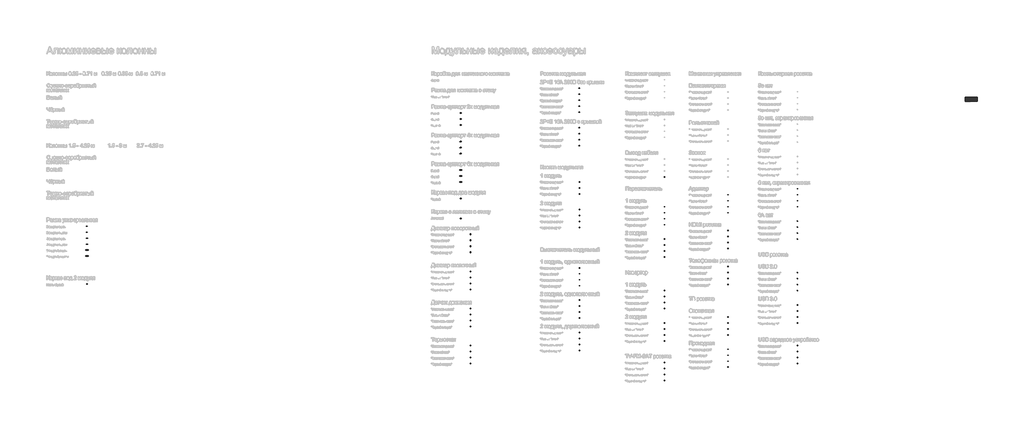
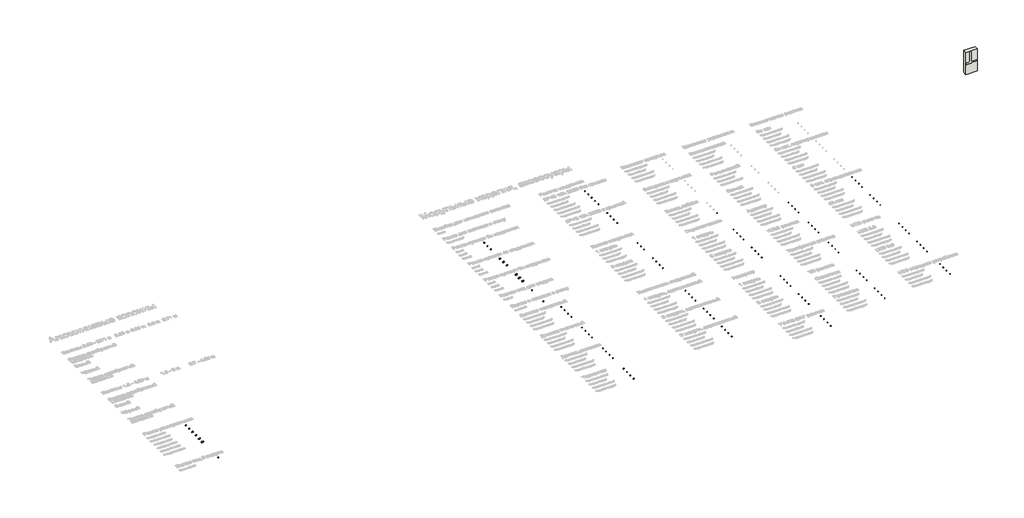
# One storey, part 1 of 168: 123 proxies, 1 wall.
"""IFC4 building model written with IfcOpenShell, lengths in millimetres."""

from ifc_helpers import new_model, si_unit, origin, place, context, project, spatial, faceted_brep, transform, mapped, element, save
from components import electrical_fixtures_64242326, electrical_fixtures_08d7c8de, electrical_fixtures_16670ead, electrical_fixtures_7d6d6c28, electrical_fixtures_3a738e40, electrical_fixtures_c6ee2e83, electrical_fixtures_77dadccb, electrical_fixtures_36bae607, electrical_fixtures_6385b20a, electrical_fixtures_9a973e3c, electrical_fixtures_b8a5143a, electrical_fixtures_9882437b, electrical_fixtures_b6adcdca, electrical_fixtures_d4c5b2d2, electrical_fixtures_fa952ffe, electrical_fixtures_b4ed8b58, electrical_fixtures_f6045c18, electrical_fixtures_06755e86, electrical_fixtures_4ca22318, electrical_fixtures_acd001a0, electrical_fixtures_1e6e54ff, electrical_fixtures_21e1debb, electrical_fixtures_02093a46, electrical_fixtures_5e17c1f7, electrical_fixtures_e4b5cbe2

model = new_model("IFC4")

# Units and contexts
model_context = context("Model", 3, world=origin())
ifc_project = project(units=[si_unit("LENGTHUNIT", "METRE", prefix="MILLI")], contexts=[model_context])

# Site, building, storey
site = spatial("IfcSite", under=ifc_project)
building = spatial("IfcBuilding", under=site)
storey = spatial("IfcBuildingStorey", under=building, Name="Этаж 01", Elevation=0.0)

# Proxies
placement = place(None, origin())
electrical_fixtures_shape = electrical_fixtures_64242326(model_context)
element("IfcBuildingElementProxy", 1, Name="КНС_РамкаСуппортЧетыреМодуля_DKC : Белая", ObjectType="КНС_РамкаСуппортЧетыреМодуля_DKC : Белая", at=placement, inside=storey, context=model_context, shape_type="MappedRepresentation", body=[
    mapped(electrical_fixtures_shape, transform((35321.1137461, -36499.4830334, 0.0), x_axis=(1.0, 0.0, 0.0), y_axis=(0.0, 1.0, 0.0), z_axis=(0.0, 0.0, 1.0))),
])
element("IfcBuildingElementProxy", 2, Name="КНС_РамкаСуппортЧетыреМодуля_DKC : Черная", ObjectType="КНС_РамкаСуппортЧетыреМодуля_DKC : Черная", at=placement, inside=storey, context=model_context, shape_type="MappedRepresentation", body=[
    mapped(electrical_fixtures_shape, transform((35321.1137461, -37499.4830334, 0.0), x_axis=(1.0, 0.0, 0.0), y_axis=(0.0, 1.0, 0.0), z_axis=(0.0, 0.0, 1.0))),
])
element("IfcBuildingElementProxy", 3, Name="КНС_РамкаСуппортЧетыреМодуля_DKC : Серая", ObjectType="КНС_РамкаСуппортЧетыреМодуля_DKC : Серая", at=placement, inside=storey, context=model_context, shape_type="MappedRepresentation", body=[
    mapped(electrical_fixtures_shape, transform((35321.1137461, -36999.4830334, 0.0), x_axis=(1.0, 0.0, 0.0), y_axis=(0.0, 1.0, 0.0), z_axis=(0.0, 0.0, 1.0))),
])
electrical_fixtures_2_shape = electrical_fixtures_08d7c8de(model_context)
element("IfcBuildingElementProxy", 4, Name="КНС_РозеткаМодульная_DKC : 2P+E 16А 230В_Белая", ObjectType="КНС_РозеткаМодульная_DKC : 2P+E 16А 230В_Белая", at=placement, inside=storey, context=model_context, shape_type="MappedRepresentation", body=[
    mapped(electrical_fixtures_2_shape, transform((45221.1137461, -32515.3174816, 0.0), x_axis=(1.0, 0.0, 0.0), y_axis=(0.0, 1.0, 0.0), z_axis=(0.0, 0.0, 1.0))),
])
electrical_fixtures_3_shape = electrical_fixtures_16670ead(model_context)
element("IfcBuildingElementProxy", 5, Name="КНС_РозеткаМодульная_DKC : С крышкой_2P+E 16А 230В_Белая", ObjectType="КНС_РозеткаМодульная_DKC : С крышкой_2P+E 16А 230В_Белая", at=placement, inside=storey, context=model_context, shape_type="MappedRepresentation", body=[
    mapped(electrical_fixtures_3_shape, transform((45221.1137461, -35815.3174816, 0.0), x_axis=(1.0, 0.0, 0.0), y_axis=(0.0, 1.0, 0.0), z_axis=(0.0, 0.0, 1.0))),
])
element("IfcBuildingElementProxy", 6, Name="КНС_РозеткаМодульная_DKC : С крышкой_2P+E 16А 230В_Бежевая", ObjectType="КНС_РозеткаМодульная_DKC : С крышкой_2P+E 16А 230В_Бежевая", at=placement, inside=storey, context=model_context, shape_type="MappedRepresentation", body=[
    mapped(electrical_fixtures_3_shape, transform((45221.1137461, -35315.3174816, 0.0), x_axis=(1.0, 0.0, 0.0), y_axis=(0.0, 1.0, 0.0), z_axis=(0.0, 0.0, 1.0))),
])
element("IfcBuildingElementProxy", 7, Name="КНС_РозеткаМодульная_DKC : 2P+E 16А 230В_Бежевая", ObjectType="КНС_РозеткаМодульная_DKC : 2P+E 16А 230В_Бежевая", at=placement, inside=storey, context=model_context, shape_type="MappedRepresentation", body=[
    mapped(electrical_fixtures_2_shape, transform((45221.1137461, -32015.3174816, 0.0), x_axis=(1.0, 0.0, 0.0), y_axis=(0.0, 1.0, 0.0), z_axis=(0.0, 0.0, 1.0))),
])
element("IfcBuildingElementProxy", 8, Name="КНС_РозеткаМодульная_DKC : 2P+E 16А 230В_Серая", ObjectType="КНС_РозеткаМодульная_DKC : 2P+E 16А 230В_Серая", at=placement, inside=storey, context=model_context, shape_type="MappedRepresentation", body=[
    mapped(electrical_fixtures_2_shape, transform((45221.1137461, -33515.3174816, 0.0), x_axis=(1.0, 0.0, 0.0), y_axis=(0.0, 1.0, 0.0), z_axis=(0.0, 0.0, 1.0))),
])
element("IfcBuildingElementProxy", 9, Name="КНС_РозеткаМодульная_DKC : 2P+E 16А 230В_Черная", ObjectType="КНС_РозеткаМодульная_DKC : 2P+E 16А 230В_Черная", at=placement, inside=storey, context=model_context, shape_type="MappedRepresentation", body=[
    mapped(electrical_fixtures_2_shape, transform((45221.1137461, -34015.3174816, 0.0), x_axis=(1.0, 0.0, 0.0), y_axis=(0.0, 1.0, 0.0), z_axis=(0.0, 0.0, 1.0))),
])
element("IfcBuildingElementProxy", 10, Name="КНС_РозеткаМодульная_DKC : 2P+E 16А 230В_Красная", ObjectType="КНС_РозеткаМодульная_DKC : 2P+E 16А 230В_Красная", at=placement, inside=storey, context=model_context, shape_type="MappedRepresentation", body=[
    mapped(electrical_fixtures_2_shape, transform((45221.1137461, -33015.3174816, 0.0), x_axis=(1.0, 0.0, 0.0), y_axis=(0.0, 1.0, 0.0), z_axis=(0.0, 0.0, 1.0))),
])
element("IfcBuildingElementProxy", 11, Name="КНС_РозеткаМодульная_DKC : С крышкой_2P+E 16А 230В_Черная", ObjectType="КНС_РозеткаМодульная_DKC : С крышкой_2P+E 16А 230В_Черная", at=placement, inside=storey, context=model_context, shape_type="MappedRepresentation", body=[
    mapped(electrical_fixtures_3_shape, transform((45221.1137461, -36815.3174816, 0.0), x_axis=(1.0, 0.0, 0.0), y_axis=(0.0, 1.0, 0.0), z_axis=(0.0, 0.0, 1.0))),
])
element("IfcBuildingElementProxy", 12, Name="КНС_РозеткаМодульная_DKC : С крышкой_2P+E 16А 230В_Серая", ObjectType="КНС_РозеткаМодульная_DKC : С крышкой_2P+E 16А 230В_Серая", at=placement, inside=storey, context=model_context, shape_type="MappedRepresentation", body=[
    mapped(electrical_fixtures_3_shape, transform((45221.1137461, -36315.3174816, 0.0), x_axis=(1.0, 0.0, 0.0), y_axis=(0.0, 1.0, 0.0), z_axis=(0.0, 0.0, 1.0))),
])
electrical_fixtures_4_shape = electrical_fixtures_7d6d6c28(model_context)
element("IfcBuildingElementProxy", 13, Name="КНС_КаркасПодДваМодуля_DKC : Черный", ObjectType="КНС_КаркасПодДваМодуля_DKC : Черный", at=placement, inside=storey, context=model_context, shape_type="MappedRepresentation", body=[
    mapped(electrical_fixtures_4_shape, transform((35321.1137461, -41265.7934012, 0.0), x_axis=(1.0, 0.0, 0.0), y_axis=(0.0, 1.0, 0.0), z_axis=(0.0, 0.0, 1.0))),
])
electrical_fixtures_5_shape = electrical_fixtures_3a738e40(model_context)
element("IfcBuildingElementProxy", 14, Name="КНС_РамкаУниверсальная_DKC : 2 модуля_Черная", ObjectType="КНС_РамкаУниверсальная_DKC : 2 модуля_Черная", at=placement, inside=storey, context=model_context, shape_type="MappedRepresentation", body=[
    mapped(electrical_fixtures_5_shape, transform((4112.3924134, -44058.3895635, 0.0), x_axis=(1.0, 0.0, 0.0), y_axis=(0.0, 1.0, 0.0), z_axis=(0.0, 0.0, 1.0))),
])
element("IfcBuildingElementProxy", 15, Name="КНС_РамкаУниверсальная_DKC : 2 модуля_Серая", ObjectType="КНС_РамкаУниверсальная_DKC : 2 модуля_Серая", at=placement, inside=storey, context=model_context, shape_type="MappedRepresentation", body=[
    mapped(electrical_fixtures_5_shape, transform((4112.3924134, -43558.3895635, 0.0), x_axis=(1.0, 0.0, 0.0), y_axis=(0.0, 1.0, 0.0), z_axis=(0.0, 0.0, 1.0))),
])
electrical_fixtures_6_shape = electrical_fixtures_c6ee2e83(model_context)
element("IfcBuildingElementProxy", 16, Name="КНС_РамкаУниверсальная_DKC : 4 модуля_Серая", ObjectType="КНС_РамкаУниверсальная_DKC : 4 модуля_Серая", at=placement, inside=storey, context=model_context, shape_type="MappedRepresentation", body=[
    mapped(electrical_fixtures_6_shape, transform((4112.3924134, -44558.3895635, 0.0), x_axis=(1.0, 0.0, 0.0), y_axis=(0.0, 1.0, 0.0), z_axis=(0.0, 0.0, 1.0))),
])
element("IfcBuildingElementProxy", 17, Name="КНС_РамкаУниверсальная_DKC : 4 модуля_Черная", ObjectType="КНС_РамкаУниверсальная_DKC : 4 модуля_Черная", at=placement, inside=storey, context=model_context, shape_type="MappedRepresentation", body=[
    mapped(electrical_fixtures_6_shape, transform((4112.3924134, -45058.3895635, 0.0), x_axis=(1.0, 0.0, 0.0), y_axis=(0.0, 1.0, 0.0), z_axis=(0.0, 0.0, 1.0))),
])
electrical_fixtures_7_shape = electrical_fixtures_77dadccb(model_context)
element("IfcBuildingElementProxy", 18, Name="КНС_РамкаУниверсальная_DKC : 6 модулей_Черная", ObjectType="КНС_РамкаУниверсальная_DKC : 6 модулей_Черная", at=placement, inside=storey, context=model_context, shape_type="MappedRepresentation", body=[
    mapped(electrical_fixtures_7_shape, transform((4112.3924134, -46058.3895635, 0.0), x_axis=(1.0, 0.0, 0.0), y_axis=(0.0, 1.0, 0.0), z_axis=(0.0, 0.0, 1.0))),
])
element("IfcBuildingElementProxy", 19, Name="КНС_РамкаУниверсальная_DKC : 6 модулей_Серая", ObjectType="КНС_РамкаУниверсальная_DKC : 6 модулей_Серая", at=placement, inside=storey, context=model_context, shape_type="MappedRepresentation", body=[
    mapped(electrical_fixtures_7_shape, transform((4112.3924134, -45558.3895635, 0.0), x_axis=(1.0, 0.0, 0.0), y_axis=(0.0, 1.0, 0.0), z_axis=(0.0, 0.0, 1.0))),
])
element("IfcBuildingElementProxy", 20, Name="КНС_КаркасПодДваМодуляBrava_DKC : Черный", ObjectType="КНС_КаркасПодДваМодуляBrava_DKC : Черный", at=placement, inside=storey, context=model_context, shape_type="MappedRepresentation", body=[
    mapped(electrical_fixtures_4_shape, transform((4112.3924134, -48400.8371918, 0.0), x_axis=(1.0, 0.0, 0.0), y_axis=(0.0, 1.0, 0.0), z_axis=(0.0, 0.0, 1.0))),
])
electrical_fixtures_8_shape = electrical_fixtures_36bae607(model_context)
element("IfcBuildingElementProxy", 21, Name="КНС_КаркасСЛапкамиВСтены_DKC : Алюминий", ObjectType="КНС_КаркасСЛапкамиВСтены_DKC : Алюминий", at=placement, inside=storey, context=model_context, shape_type="MappedRepresentation", body=[
    mapped(electrical_fixtures_8_shape, transform((35321.1137461, -42901.0934012, 0.0), x_axis=(1.0, 0.0, 0.0), y_axis=(0.0, 1.0, 0.0), z_axis=(0.0, 0.0, 1.0))),
])
electrical_fixtures_9_shape = electrical_fixtures_6385b20a(model_context)
element("IfcBuildingElementProxy", 22, Name="КНС_РамкаСуппортДваМодуля_DKC : Белая", ObjectType="КНС_РамкаСуппортДваМодуля_DKC : Белая", at=placement, inside=storey, context=model_context, shape_type="MappedRepresentation", body=[
    mapped(electrical_fixtures_9_shape, transform((35321.1137461, -34116.3278495, 0.0), x_axis=(1.0, 0.0, 0.0), y_axis=(0.0, 1.0, 0.0), z_axis=(0.0, 0.0, 1.0))),
])
element("IfcBuildingElementProxy", 23, Name="КНС_РамкаСуппортДваМодуля_DKC : Черная", ObjectType="КНС_РамкаСуппортДваМодуля_DKC : Черная", at=placement, inside=storey, context=model_context, shape_type="MappedRepresentation", body=[
    mapped(electrical_fixtures_9_shape, transform((35321.1137461, -35116.3278495, 0.0), x_axis=(1.0, 0.0, 0.0), y_axis=(0.0, 1.0, 0.0), z_axis=(0.0, 0.0, 1.0))),
])
element("IfcBuildingElementProxy", 24, Name="КНС_РамкаСуппортДваМодуля_DKC : Серая", ObjectType="КНС_РамкаСуппортДваМодуля_DKC : Серая", at=placement, inside=storey, context=model_context, shape_type="MappedRepresentation", body=[
    mapped(electrical_fixtures_9_shape, transform((35321.1137461, -34616.3278495, 0.0), x_axis=(1.0, 0.0, 0.0), y_axis=(0.0, 1.0, 0.0), z_axis=(0.0, 0.0, 1.0))),
])
electrical_fixtures_10_shape = electrical_fixtures_9a973e3c(model_context)
element("IfcBuildingElementProxy", 25, Name="КНС_РамкаСуппортШестьМодулей_DKC : Белая", ObjectType="КНС_РамкаСуппортШестьМодулей_DKC : Белая", at=placement, inside=storey, context=model_context, shape_type="MappedRepresentation", body=[
    mapped(electrical_fixtures_10_shape, transform((35321.1137461, -38882.6382173, 0.0), x_axis=(1.0, 0.0, 0.0), y_axis=(0.0, 1.0, 0.0), z_axis=(0.0, 0.0, 1.0))),
])
element("IfcBuildingElementProxy", 26, Name="КНС_РамкаСуппортШестьМодулей_DKC : Черная", ObjectType="КНС_РамкаСуппортШестьМодулей_DKC : Черная", at=placement, inside=storey, context=model_context, shape_type="MappedRepresentation", body=[
    mapped(electrical_fixtures_10_shape, transform((35321.1137461, -39882.6382173, 0.0), x_axis=(1.0, 0.0, 0.0), y_axis=(0.0, 1.0, 0.0), z_axis=(0.0, 0.0, 1.0))),
])
element("IfcBuildingElementProxy", 27, Name="КНС_РамкаСуппортШестьМодулей_DKC : Серая", ObjectType="КНС_РамкаСуппортШестьМодулей_DKC : Серая", at=placement, inside=storey, context=model_context, shape_type="MappedRepresentation", body=[
    mapped(electrical_fixtures_10_shape, transform((35321.1137461, -39382.6382173, 0.0), x_axis=(1.0, 0.0, 0.0), y_axis=(0.0, 1.0, 0.0), z_axis=(0.0, 0.0, 1.0))),
])
electrical_fixtures_11_shape = electrical_fixtures_b8a5143a(model_context)
element("IfcBuildingElementProxy", 28, Name="КНС_КнопкаМодульная_DKC : 2 модуля_Белый", ObjectType="КНС_КнопкаМодульная_DKC : 2 модуля_Белый", at=placement, inside=storey, context=model_context, shape_type="MappedRepresentation", body=[
    mapped(electrical_fixtures_11_shape, transform((45221.1137461, -42631.0934012, 0.0), x_axis=(1.0, 0.0, 0.0), y_axis=(0.0, 1.0, 0.0), z_axis=(0.0, 0.0, 1.0))),
])
element("IfcBuildingElementProxy", 29, Name="КНС_КнопкаМодульная_DKC : 2 модуля_Бежевый", ObjectType="КНС_КнопкаМодульная_DKC : 2 модуля_Бежевый", at=placement, inside=storey, context=model_context, shape_type="MappedRepresentation", body=[
    mapped(electrical_fixtures_11_shape, transform((45221.1137461, -42131.0934012, 0.0), x_axis=(1.0, 0.0, 0.0), y_axis=(0.0, 1.0, 0.0), z_axis=(0.0, 0.0, 1.0))),
])
element("IfcBuildingElementProxy", 30, Name="КНС_КнопкаМодульная_DKC : 2 модуля_Серый", ObjectType="КНС_КнопкаМодульная_DKC : 2 модуля_Серый", at=placement, inside=storey, context=model_context, shape_type="MappedRepresentation", body=[
    mapped(electrical_fixtures_11_shape, transform((45221.1137461, -43131.0934012, 0.0), x_axis=(1.0, 0.0, 0.0), y_axis=(0.0, 1.0, 0.0), z_axis=(0.0, 0.0, 1.0))),
])
element("IfcBuildingElementProxy", 31, Name="КНС_КнопкаМодульная_DKC : 2 модуля_Черный", ObjectType="КНС_КнопкаМодульная_DKC : 2 модуля_Черный", at=placement, inside=storey, context=model_context, shape_type="MappedRepresentation", body=[
    mapped(electrical_fixtures_11_shape, transform((45221.1137461, -43631.0934012, 0.0), x_axis=(1.0, 0.0, 0.0), y_axis=(0.0, 1.0, 0.0), z_axis=(0.0, 0.0, 1.0))),
])
electrical_fixtures_12_shape = electrical_fixtures_9882437b(model_context)
element("IfcBuildingElementProxy", 32, Name="КНС_КнопкаМодульная_DKC : 1 модуль_Бежевый", ObjectType="КНС_КнопкаМодульная_DKC : 1 модуль_Бежевый", at=placement, inside=storey, context=model_context, shape_type="MappedRepresentation", body=[
    mapped(electrical_fixtures_12_shape, transform((45221.1137461, -39831.0934012, 0.0), x_axis=(1.0, 0.0, 0.0), y_axis=(0.0, 1.0, 0.0), z_axis=(0.0, 0.0, 1.0))),
])
element("IfcBuildingElementProxy", 33, Name="КНС_КнопкаМодульная_DKC : 1 модуль_Белый", ObjectType="КНС_КнопкаМодульная_DKC : 1 модуль_Белый", at=placement, inside=storey, context=model_context, shape_type="MappedRepresentation", body=[
    mapped(electrical_fixtures_12_shape, transform((45221.1137461, -40331.0934012, 0.0), x_axis=(1.0, 0.0, 0.0), y_axis=(0.0, 1.0, 0.0), z_axis=(0.0, 0.0, 1.0))),
])
element("IfcBuildingElementProxy", 34, Name="КНС_КнопкаМодульная_DKC : 1 модуль_Черный", ObjectType="КНС_КнопкаМодульная_DKC : 1 модуль_Черный", at=placement, inside=storey, context=model_context, shape_type="MappedRepresentation", body=[
    mapped(electrical_fixtures_12_shape, transform((45221.1137461, -40831.0934012, 0.0), x_axis=(1.0, 0.0, 0.0), y_axis=(0.0, 1.0, 0.0), z_axis=(0.0, 0.0, 1.0))),
])
element("IfcBuildingElementProxy", 35, Name="КНС_ВыключательМодульный_DKC : Однополюсный_2 модуля_Белый", ObjectType="КНС_ВыключательМодульный_DKC : Однополюсный_2 модуля_Белый", at=placement, inside=storey, context=model_context, shape_type="MappedRepresentation", body=[
    mapped(electrical_fixtures_11_shape, transform((45221.1137461, -50209.0514682, 0.0), x_axis=(1.0, 0.0, 0.0), y_axis=(0.0, 1.0, 0.0), z_axis=(0.0, 0.0, 1.0))),
])
element("IfcBuildingElementProxy", 36, Name="КНС_ВыключательМодульный_DKC : Однополюсный_2 модуля_Бежевый", ObjectType="КНС_ВыключательМодульный_DKC : Однополюсный_2 модуля_Бежевый", at=placement, inside=storey, context=model_context, shape_type="MappedRepresentation", body=[
    mapped(electrical_fixtures_11_shape, transform((45221.1137461, -49709.0514682, 0.0), x_axis=(1.0, 0.0, 0.0), y_axis=(0.0, 1.0, 0.0), z_axis=(0.0, 0.0, 1.0))),
])
element("IfcBuildingElementProxy", 37, Name="КНС_ВыключательМодульный_DKC : Однополюсный_2 модуля_Серый", ObjectType="КНС_ВыключательМодульный_DKC : Однополюсный_2 модуля_Серый", at=placement, inside=storey, context=model_context, shape_type="MappedRepresentation", body=[
    mapped(electrical_fixtures_11_shape, transform((45221.1137461, -50709.0514682, 0.0), x_axis=(1.0, 0.0, 0.0), y_axis=(0.0, 1.0, 0.0), z_axis=(0.0, 0.0, 1.0))),
])
element("IfcBuildingElementProxy", 38, Name="КНС_ВыключательМодульный_DKC : Однополюсный_2 модуля_Черный", ObjectType="КНС_ВыключательМодульный_DKC : Однополюсный_2 модуля_Черный", at=placement, inside=storey, context=model_context, shape_type="MappedRepresentation", body=[
    mapped(electrical_fixtures_11_shape, transform((45221.1137461, -51209.0514682, 0.0), x_axis=(1.0, 0.0, 0.0), y_axis=(0.0, 1.0, 0.0), z_axis=(0.0, 0.0, 1.0))),
])
element("IfcBuildingElementProxy", 39, Name="КНС_ВыключательМодульный_DKC : Однополюсный_1 модуль_Бежевый", ObjectType="КНС_ВыключательМодульный_DKC : Однополюсный_1 модуль_Бежевый", at=placement, inside=storey, context=model_context, shape_type="MappedRepresentation", body=[
    mapped(electrical_fixtures_12_shape, transform((45221.1137461, -47009.0514682, 0.0), x_axis=(1.0, 0.0, 0.0), y_axis=(0.0, 1.0, 0.0), z_axis=(0.0, 0.0, 1.0))),
])
element("IfcBuildingElementProxy", 40, Name="КНС_ВыключательМодульный_DKC : Однополюсный_1 модуль_Белый", ObjectType="КНС_ВыключательМодульный_DKC : Однополюсный_1 модуль_Белый", at=placement, inside=storey, context=model_context, shape_type="MappedRepresentation", body=[
    mapped(electrical_fixtures_12_shape, transform((45221.1137461, -47509.0514682, 0.0), x_axis=(1.0, 0.0, 0.0), y_axis=(0.0, 1.0, 0.0), z_axis=(0.0, 0.0, 1.0))),
])
element("IfcBuildingElementProxy", 41, Name="КНС_ВыключательМодульный_DKC : Однополюсный_1 модуль_Черный", ObjectType="КНС_ВыключательМодульный_DKC : Однополюсный_1 модуль_Черный", at=placement, inside=storey, context=model_context, shape_type="MappedRepresentation", body=[
    mapped(electrical_fixtures_12_shape, transform((45221.1137461, -48509.0514682, 0.0), x_axis=(1.0, 0.0, 0.0), y_axis=(0.0, 1.0, 0.0), z_axis=(0.0, 0.0, 1.0))),
])
element("IfcBuildingElementProxy", 42, Name="КНС_ВыключательМодульный_DKC : Однополюсный_1 модуль_Серый", ObjectType="КНС_ВыключательМодульный_DKC : Однополюсный_1 модуль_Серый", at=placement, inside=storey, context=model_context, shape_type="MappedRepresentation", body=[
    mapped(electrical_fixtures_12_shape, transform((45221.1137461, -48009.0514682, 0.0), x_axis=(1.0, 0.0, 0.0), y_axis=(0.0, 1.0, 0.0), z_axis=(0.0, 0.0, 1.0))),
])
element("IfcBuildingElementProxy", 43, Name="КНС_ВыключательМодульный_DKC : Двухполюсный_2 модуля_Черный", ObjectType="КНС_ВыключательМодульный_DKC : Двухполюсный_2 модуля_Черный", at=placement, inside=storey, context=model_context, shape_type="MappedRepresentation", body=[
    mapped(electrical_fixtures_11_shape, transform((45221.1137461, -53909.0514682, 0.0), x_axis=(1.0, 0.0, 0.0), y_axis=(0.0, 1.0, 0.0), z_axis=(0.0, 0.0, 1.0))),
])
element("IfcBuildingElementProxy", 44, Name="КНС_ВыключательМодульный_DKC : Двухполюсный_2 модуля_Серый", ObjectType="КНС_ВыключательМодульный_DKC : Двухполюсный_2 модуля_Серый", at=placement, inside=storey, context=model_context, shape_type="MappedRepresentation", body=[
    mapped(electrical_fixtures_11_shape, transform((45221.1137461, -53409.0514682, 0.0), x_axis=(1.0, 0.0, 0.0), y_axis=(0.0, 1.0, 0.0), z_axis=(0.0, 0.0, 1.0))),
])
element("IfcBuildingElementProxy", 45, Name="КНС_ВыключательМодульный_DKC : Двухполюсный_2 модуля_Белый", ObjectType="КНС_ВыключательМодульный_DKC : Двухполюсный_2 модуля_Белый", at=placement, inside=storey, context=model_context, shape_type="MappedRepresentation", body=[
    mapped(electrical_fixtures_11_shape, transform((45221.1137461, -52909.0514682, 0.0), x_axis=(1.0, 0.0, 0.0), y_axis=(0.0, 1.0, 0.0), z_axis=(0.0, 0.0, 1.0))),
])
element("IfcBuildingElementProxy", 46, Name="КНС_ВыключательМодульный_DKC : Двухполюсный_2 модуля_Бежевый", ObjectType="КНС_ВыключательМодульный_DKC : Двухполюсный_2 модуля_Бежевый", at=placement, inside=storey, context=model_context, shape_type="MappedRepresentation", body=[
    mapped(electrical_fixtures_11_shape, transform((45221.1137461, -52409.0514682, 0.0), x_axis=(1.0, 0.0, 0.0), y_axis=(0.0, 1.0, 0.0), z_axis=(0.0, 0.0, 1.0))),
])
electrical_fixtures_13_shape = electrical_fixtures_b6adcdca(model_context)
element("IfcBuildingElementProxy", 47, Name="КНС_ВыводКабеляДваМодуля_DKC : Черный", ObjectType="КНС_ВыводКабеляДваМодуля_DKC : Черный", at=placement, inside=storey, context=model_context, shape_type="MappedRepresentation", body=[
    mapped(electrical_fixtures_13_shape, transform((52321.1137461, -39415.3174816, 0.0), x_axis=(1.0, 0.0, 0.0), y_axis=(0.0, 1.0, 0.0), z_axis=(0.0, 0.0, 1.0))),
])
element("IfcBuildingElementProxy", 48, Name="КНС_ПереключательМодульный_DKC : 2 модуля_Белый", ObjectType="КНС_ПереключательМодульный_DKC : 2 модуля_Белый", at=placement, inside=storey, context=model_context, shape_type="MappedRepresentation", body=[
    mapped(electrical_fixtures_11_shape, transform((52321.1137461, -45115.3174816, 0.0), x_axis=(1.0, 0.0, 0.0), y_axis=(0.0, 1.0, 0.0), z_axis=(0.0, 0.0, 1.0))),
])
element("IfcBuildingElementProxy", 49, Name="КНС_ПереключательМодульный_DKC : 2 модуля_Бежевый", ObjectType="КНС_ПереключательМодульный_DKC : 2 модуля_Бежевый", at=placement, inside=storey, context=model_context, shape_type="MappedRepresentation", body=[
    mapped(electrical_fixtures_11_shape, transform((52321.1137461, -44615.3174816, 0.0), x_axis=(1.0, 0.0, 0.0), y_axis=(0.0, 1.0, 0.0), z_axis=(0.0, 0.0, 1.0))),
])
element("IfcBuildingElementProxy", 50, Name="КНС_ПереключательМодульный_DKC : 2 модуля_Серый", ObjectType="КНС_ПереключательМодульный_DKC : 2 модуля_Серый", at=placement, inside=storey, context=model_context, shape_type="MappedRepresentation", body=[
    mapped(electrical_fixtures_11_shape, transform((52321.1137461, -45615.3174816, 0.0), x_axis=(1.0, 0.0, 0.0), y_axis=(0.0, 1.0, 0.0), z_axis=(0.0, 0.0, 1.0))),
])
element("IfcBuildingElementProxy", 51, Name="КНС_ПереключательМодульный_DKC : 2 модуля_Черный", ObjectType="КНС_ПереключательМодульный_DKC : 2 модуля_Черный", at=placement, inside=storey, context=model_context, shape_type="MappedRepresentation", body=[
    mapped(electrical_fixtures_11_shape, transform((52321.1137461, -46115.3174816, 0.0), x_axis=(1.0, 0.0, 0.0), y_axis=(0.0, 1.0, 0.0), z_axis=(0.0, 0.0, 1.0))),
])
element("IfcBuildingElementProxy", 52, Name="КНС_ПереключательМодульный_DKC : 1 модуль_Бежевый", ObjectType="КНС_ПереключательМодульный_DKC : 1 модуль_Бежевый", at=placement, inside=storey, context=model_context, shape_type="MappedRepresentation", body=[
    mapped(electrical_fixtures_12_shape, transform((52321.1137461, -41915.3174816, 0.0), x_axis=(1.0, 0.0, 0.0), y_axis=(0.0, 1.0, 0.0), z_axis=(0.0, 0.0, 1.0))),
])
element("IfcBuildingElementProxy", 53, Name="КНС_ПереключательМодульный_DKC : 1 модуль_Белый", ObjectType="КНС_ПереключательМодульный_DKC : 1 модуль_Белый", at=placement, inside=storey, context=model_context, shape_type="MappedRepresentation", body=[
    mapped(electrical_fixtures_12_shape, transform((52321.1137461, -42415.3174816, 0.0), x_axis=(1.0, 0.0, 0.0), y_axis=(0.0, 1.0, 0.0), z_axis=(0.0, 0.0, 1.0))),
])
element("IfcBuildingElementProxy", 54, Name="КНС_ПереключательМодульный_DKC : 1 модуль_Серый", ObjectType="КНС_ПереключательМодульный_DKC : 1 модуль_Серый", at=placement, inside=storey, context=model_context, shape_type="MappedRepresentation", body=[
    mapped(electrical_fixtures_12_shape, transform((52321.1137461, -42915.3174816, 0.0), x_axis=(1.0, 0.0, 0.0), y_axis=(0.0, 1.0, 0.0), z_axis=(0.0, 0.0, 1.0))),
])
element("IfcBuildingElementProxy", 55, Name="КНС_ПереключательМодульный_DKC : 1 модуль_Черный", ObjectType="КНС_ПереключательМодульный_DKC : 1 модуль_Черный", at=placement, inside=storey, context=model_context, shape_type="MappedRepresentation", body=[
    mapped(electrical_fixtures_12_shape, transform((52321.1137461, -43415.3174816, 0.0), x_axis=(1.0, 0.0, 0.0), y_axis=(0.0, 1.0, 0.0), z_axis=(0.0, 0.0, 1.0))),
])
element("IfcBuildingElementProxy", 56, Name="КНС_ИнверторМодульный_DKC : 2 модуля_Белый", ObjectType="КНС_ИнверторМодульный_DKC : 2 модуля_Белый", at=placement, inside=storey, context=model_context, shape_type="MappedRepresentation", body=[
    mapped(electrical_fixtures_11_shape, transform((52321.1137461, -52115.3174816, 0.0), x_axis=(1.0, 0.0, 0.0), y_axis=(0.0, 1.0, 0.0), z_axis=(0.0, 0.0, 1.0))),
])
element("IfcBuildingElementProxy", 57, Name="КНС_ИнверторМодульный_DKC : 2 модуля_Бежевый", ObjectType="КНС_ИнверторМодульный_DKC : 2 модуля_Бежевый", at=placement, inside=storey, context=model_context, shape_type="MappedRepresentation", body=[
    mapped(electrical_fixtures_11_shape, transform((52321.1137461, -51615.3174816, 0.0), x_axis=(1.0, 0.0, 0.0), y_axis=(0.0, 1.0, 0.0), z_axis=(0.0, 0.0, 1.0))),
])
element("IfcBuildingElementProxy", 58, Name="КНС_ИнверторМодульный_DKC : 2 модуля_Серый", ObjectType="КНС_ИнверторМодульный_DKC : 2 модуля_Серый", at=placement, inside=storey, context=model_context, shape_type="MappedRepresentation", body=[
    mapped(electrical_fixtures_11_shape, transform((52321.1137461, -52615.3174816, 0.0), x_axis=(1.0, 0.0, 0.0), y_axis=(0.0, 1.0, 0.0), z_axis=(0.0, 0.0, 1.0))),
])
element("IfcBuildingElementProxy", 59, Name="КНС_ИнверторМодульный_DKC : 2 модуля_Черный", ObjectType="КНС_ИнверторМодульный_DKC : 2 модуля_Черный", at=placement, inside=storey, context=model_context, shape_type="MappedRepresentation", body=[
    mapped(electrical_fixtures_11_shape, transform((52321.1137461, -53115.3174816, 0.0), x_axis=(1.0, 0.0, 0.0), y_axis=(0.0, 1.0, 0.0), z_axis=(0.0, 0.0, 1.0))),
])
element("IfcBuildingElementProxy", 60, Name="КНС_ИнверторМодульный_DKC : 1 модуль_Бежевый", ObjectType="КНС_ИнверторМодульный_DKC : 1 модуль_Бежевый", at=placement, inside=storey, context=model_context, shape_type="MappedRepresentation", body=[
    mapped(electrical_fixtures_12_shape, transform((52321.1137461, -48915.3174816, 0.0), x_axis=(1.0, 0.0, 0.0), y_axis=(0.0, 1.0, 0.0), z_axis=(0.0, 0.0, 1.0))),
])
element("IfcBuildingElementProxy", 61, Name="КНС_ИнверторМодульный_DKC : 1 модуль_Белый", ObjectType="КНС_ИнверторМодульный_DKC : 1 модуль_Белый", at=placement, inside=storey, context=model_context, shape_type="MappedRepresentation", body=[
    mapped(electrical_fixtures_12_shape, transform((52321.1137461, -49415.3174816, 0.0), x_axis=(1.0, 0.0, 0.0), y_axis=(0.0, 1.0, 0.0), z_axis=(0.0, 0.0, 1.0))),
])
element("IfcBuildingElementProxy", 62, Name="КНС_ИнверторМодульный_DKC : 1 модуль_Серый", ObjectType="КНС_ИнверторМодульный_DKC : 1 модуль_Серый", at=placement, inside=storey, context=model_context, shape_type="MappedRepresentation", body=[
    mapped(electrical_fixtures_12_shape, transform((52321.1137461, -49915.3174816, 0.0), x_axis=(1.0, 0.0, 0.0), y_axis=(0.0, 1.0, 0.0), z_axis=(0.0, 0.0, 1.0))),
])
element("IfcBuildingElementProxy", 63, Name="КНС_ИнверторМодульный_DKC : 1 модуль_Черный", ObjectType="КНС_ИнверторМодульный_DKC : 1 модуль_Черный", at=placement, inside=storey, context=model_context, shape_type="MappedRepresentation", body=[
    mapped(electrical_fixtures_12_shape, transform((52321.1137461, -50415.3174816, 0.0), x_axis=(1.0, 0.0, 0.0), y_axis=(0.0, 1.0, 0.0), z_axis=(0.0, 0.0, 1.0))),
])
electrical_fixtures_14_shape = electrical_fixtures_d4c5b2d2(model_context)
element("IfcBuildingElementProxy", 64, Name="КНС_ДиммерКнопочныйМодульный_DKC : Белый", ObjectType="КНС_ДиммерКнопочныйМодульный_DKC : Белый", at=placement, inside=storey, context=model_context, shape_type="MappedRepresentation", body=[
    mapped(electrical_fixtures_14_shape, transform((36121.1137461, -47814.2485851, 0.0), x_axis=(1.0, 0.0, 0.0), y_axis=(0.0, 1.0, 0.0), z_axis=(0.0, 0.0, 1.0))),
])
element("IfcBuildingElementProxy", 65, Name="КНС_ДиммерКнопочныйМодульный_DKC : Бежевый", ObjectType="КНС_ДиммерКнопочныйМодульный_DKC : Бежевый", at=placement, inside=storey, context=model_context, shape_type="MappedRepresentation", body=[
    mapped(electrical_fixtures_14_shape, transform((36121.1137461, -47314.2485851, 0.0), x_axis=(1.0, 0.0, 0.0), y_axis=(0.0, 1.0, 0.0), z_axis=(0.0, 0.0, 1.0))),
])
element("IfcBuildingElementProxy", 66, Name="КНС_ДиммерКнопочныйМодульный_DKC : Серый", ObjectType="КНС_ДиммерКнопочныйМодульный_DKC : Серый", at=placement, inside=storey, context=model_context, shape_type="MappedRepresentation", body=[
    mapped(electrical_fixtures_14_shape, transform((36121.1137461, -48314.2485851, 0.0), x_axis=(1.0, 0.0, 0.0), y_axis=(0.0, 1.0, 0.0), z_axis=(0.0, 0.0, 1.0))),
])
element("IfcBuildingElementProxy", 67, Name="КНС_ДиммерКнопочныйМодульный_DKC : Черный", ObjectType="КНС_ДиммерКнопочныйМодульный_DKC : Черный", at=placement, inside=storey, context=model_context, shape_type="MappedRepresentation", body=[
    mapped(electrical_fixtures_14_shape, transform((36121.1137461, -48814.2485851, 0.0), x_axis=(1.0, 0.0, 0.0), y_axis=(0.0, 1.0, 0.0), z_axis=(0.0, 0.0, 1.0))),
])
electrical_fixtures_15_shape = electrical_fixtures_fa952ffe(model_context)
element("IfcBuildingElementProxy", 68, Name="КНС_ДиммерПоворотныйМодульный_DKC : Белый", ObjectType="КНС_ДиммерПоворотныйМодульный_DKC : Белый", at=placement, inside=storey, context=model_context, shape_type="MappedRepresentation", body=[
    mapped(electrical_fixtures_15_shape, transform((36121.1137461, -44714.2485851, 0.0), x_axis=(1.0, 0.0, 0.0), y_axis=(0.0, 1.0, 0.0), z_axis=(0.0, 0.0, 1.0))),
])
element("IfcBuildingElementProxy", 69, Name="КНС_ДиммерПоворотныйМодульный_DKC : Бежевый", ObjectType="КНС_ДиммерПоворотныйМодульный_DKC : Бежевый", at=placement, inside=storey, context=model_context, shape_type="MappedRepresentation", body=[
    mapped(electrical_fixtures_15_shape, transform((36121.1137461, -44214.2485851, 0.0), x_axis=(1.0, 0.0, 0.0), y_axis=(0.0, 1.0, 0.0), z_axis=(0.0, 0.0, 1.0))),
])
element("IfcBuildingElementProxy", 70, Name="КНС_ДиммерПоворотныйМодульный_DKC : Серый", ObjectType="КНС_ДиммерПоворотныйМодульный_DKC : Серый", at=placement, inside=storey, context=model_context, shape_type="MappedRepresentation", body=[
    mapped(electrical_fixtures_15_shape, transform((36121.1137461, -45214.2485851, 0.0), x_axis=(1.0, 0.0, 0.0), y_axis=(0.0, 1.0, 0.0), z_axis=(0.0, 0.0, 1.0))),
])
element("IfcBuildingElementProxy", 71, Name="КНС_ДиммерПоворотныйМодульный_DKC : Черный", ObjectType="КНС_ДиммерПоворотныйМодульный_DKC : Черный", at=placement, inside=storey, context=model_context, shape_type="MappedRepresentation", body=[
    mapped(electrical_fixtures_15_shape, transform((36121.1137461, -45714.2485851, 0.0), x_axis=(1.0, 0.0, 0.0), y_axis=(0.0, 1.0, 0.0), z_axis=(0.0, 0.0, 1.0))),
])
electrical_fixtures_16_shape = electrical_fixtures_b4ed8b58(model_context)
element("IfcBuildingElementProxy", 72, Name="КНС_ДатчикДвиженияМодульный_DKC : Белый", ObjectType="КНС_ДатчикДвиженияМодульный_DKC : Белый", at=placement, inside=storey, context=model_context, shape_type="MappedRepresentation", body=[
    mapped(electrical_fixtures_16_shape, transform((36121.1137461, -50914.2485851, 0.0), x_axis=(1.0, 0.0, 0.0), y_axis=(0.0, 1.0, 0.0), z_axis=(0.0, 0.0, 1.0))),
])
element("IfcBuildingElementProxy", 73, Name="КНС_ДатчикДвиженияМодульный_DKC : Бежевый", ObjectType="КНС_ДатчикДвиженияМодульный_DKC : Бежевый", at=placement, inside=storey, context=model_context, shape_type="MappedRepresentation", body=[
    mapped(electrical_fixtures_16_shape, transform((36121.1137461, -50414.2485851, 0.0), x_axis=(1.0, 0.0, 0.0), y_axis=(0.0, 1.0, 0.0), z_axis=(0.0, 0.0, 1.0))),
])
element("IfcBuildingElementProxy", 74, Name="КНС_ДатчикДвиженияМодульный_DKC : Серый", ObjectType="КНС_ДатчикДвиженияМодульный_DKC : Серый", at=placement, inside=storey, context=model_context, shape_type="MappedRepresentation", body=[
    mapped(electrical_fixtures_16_shape, transform((36121.1137461, -51414.2485851, 0.0), x_axis=(1.0, 0.0, 0.0), y_axis=(0.0, 1.0, 0.0), z_axis=(0.0, 0.0, 1.0))),
])
element("IfcBuildingElementProxy", 75, Name="КНС_ДатчикДвиженияМодульный_DKC : Черный", ObjectType="КНС_ДатчикДвиженияМодульный_DKC : Черный", at=placement, inside=storey, context=model_context, shape_type="MappedRepresentation", body=[
    mapped(electrical_fixtures_16_shape, transform((36121.1137461, -51914.2485851, 0.0), x_axis=(1.0, 0.0, 0.0), y_axis=(0.0, 1.0, 0.0), z_axis=(0.0, 0.0, 1.0))),
])
electrical_fixtures_17_shape = electrical_fixtures_f6045c18(model_context)
element("IfcBuildingElementProxy", 76, Name="КНС_ТермостатМодульныйДляТеплыхПолов_DKC : Белый", ObjectType="КНС_ТермостатМодульныйДляТеплыхПолов_DKC : Белый", at=placement, inside=storey, context=model_context, shape_type="MappedRepresentation", body=[
    mapped(electrical_fixtures_17_shape, transform((36121.1137461, -54014.2485851, 0.0), x_axis=(1.0, 0.0, 0.0), y_axis=(0.0, 1.0, 0.0), z_axis=(0.0, 0.0, 1.0))),
])
element("IfcBuildingElementProxy", 77, Name="КНС_ТермостатМодульныйДляТеплыхПолов_DKC : Бежевый", ObjectType="КНС_ТермостатМодульныйДляТеплыхПолов_DKC : Бежевый", at=placement, inside=storey, context=model_context, shape_type="MappedRepresentation", body=[
    mapped(electrical_fixtures_17_shape, transform((36121.1137461, -53514.2485851, 0.0), x_axis=(1.0, 0.0, 0.0), y_axis=(0.0, 1.0, 0.0), z_axis=(0.0, 0.0, 1.0))),
])
element("IfcBuildingElementProxy", 78, Name="КНС_ТермостатМодульныйДляТеплыхПолов_DKC : Серый", ObjectType="КНС_ТермостатМодульныйДляТеплыхПолов_DKC : Серый", at=placement, inside=storey, context=model_context, shape_type="MappedRepresentation", body=[
    mapped(electrical_fixtures_17_shape, transform((36121.1137461, -54514.2485851, 0.0), x_axis=(1.0, 0.0, 0.0), y_axis=(0.0, 1.0, 0.0), z_axis=(0.0, 0.0, 1.0))),
])
element("IfcBuildingElementProxy", 79, Name="КНС_ТермостатМодульныйДляТеплыхПолов_DKC : Черный", ObjectType="КНС_ТермостатМодульныйДляТеплыхПолов_DKC : Черный", at=placement, inside=storey, context=model_context, shape_type="MappedRepresentation", body=[
    mapped(electrical_fixtures_17_shape, transform((36121.1137461, -55014.2485851, 0.0), x_axis=(1.0, 0.0, 0.0), y_axis=(0.0, 1.0, 0.0), z_axis=(0.0, 0.0, 1.0))),
])
electrical_fixtures_18_shape = electrical_fixtures_06755e86(model_context)
element("IfcBuildingElementProxy", 80, Name="КНС_АдаптерМодульный_DKC : Белая", ObjectType="КНС_АдаптерМодульный_DKC : Белая", at=placement, inside=storey, context=model_context, shape_type="MappedRepresentation", body=[
    mapped(electrical_fixtures_18_shape, transform((57630.7424412, -41450.0174816, 0.0), x_axis=(1.0, 0.0, 0.0), y_axis=(0.0, 1.0, 0.0), z_axis=(0.0, 0.0, 1.0))),
])
element("IfcBuildingElementProxy", 81, Name="КНС_АдаптерМодульный_DKC : Черная", ObjectType="КНС_АдаптерМодульный_DKC : Черная", at=placement, inside=storey, context=model_context, shape_type="MappedRepresentation", body=[
    mapped(electrical_fixtures_18_shape, transform((57630.7424412, -42450.0174816, 0.0), x_axis=(1.0, 0.0, 0.0), y_axis=(0.0, 1.0, 0.0), z_axis=(0.0, 0.0, 1.0))),
])
element("IfcBuildingElementProxy", 82, Name="КНС_АдаптерМодульный_DKC : Серая", ObjectType="КНС_АдаптерМодульный_DKC : Серая", at=placement, inside=storey, context=model_context, shape_type="MappedRepresentation", body=[
    mapped(electrical_fixtures_18_shape, transform((57630.7424412, -41950.0174816, 0.0), x_axis=(1.0, 0.0, 0.0), y_axis=(0.0, 1.0, 0.0), z_axis=(0.0, 0.0, 1.0))),
])
element("IfcBuildingElementProxy", 83, Name="КНС_АдаптерМодульный_DKC : Бежевая", ObjectType="КНС_АдаптерМодульный_DKC : Бежевая", at=placement, inside=storey, context=model_context, shape_type="MappedRepresentation", body=[
    mapped(electrical_fixtures_18_shape, transform((57630.7424412, -40950.0174816, 0.0), x_axis=(1.0, 0.0, 0.0), y_axis=(0.0, 1.0, 0.0), z_axis=(0.0, 0.0, 1.0))),
])
electrical_fixtures_19_shape = electrical_fixtures_4ca22318(model_context)
element("IfcBuildingElementProxy", 84, Name="КНС_HDMIРозеткаМодульная_DKC : Белая", ObjectType="КНС_HDMIРозеткаМодульная_DKC : Белая", at=placement, inside=storey, context=model_context, shape_type="MappedRepresentation", body=[
    mapped(electrical_fixtures_19_shape, transform((57630.7424412, -44450.0174816, 0.0), x_axis=(1.0, 0.0, 0.0), y_axis=(0.0, 1.0, 0.0), z_axis=(0.0, 0.0, 1.0))),
])
element("IfcBuildingElementProxy", 85, Name="КНС_HDMIРозеткаМодульная_DKC : Черная", ObjectType="КНС_HDMIРозеткаМодульная_DKC : Черная", at=placement, inside=storey, context=model_context, shape_type="MappedRepresentation", body=[
    mapped(electrical_fixtures_19_shape, transform((57630.7424412, -45450.0174816, 0.0), x_axis=(1.0, 0.0, 0.0), y_axis=(0.0, 1.0, 0.0), z_axis=(0.0, 0.0, 1.0))),
])
element("IfcBuildingElementProxy", 86, Name="КНС_HDMIРозеткаМодульная_DKC : Серая", ObjectType="КНС_HDMIРозеткаМодульная_DKC : Серая", at=placement, inside=storey, context=model_context, shape_type="MappedRepresentation", body=[
    mapped(electrical_fixtures_19_shape, transform((57630.7424412, -44950.0174816, 0.0), x_axis=(1.0, 0.0, 0.0), y_axis=(0.0, 1.0, 0.0), z_axis=(0.0, 0.0, 1.0))),
])
element("IfcBuildingElementProxy", 87, Name="КНС_HDMIРозеткаМодульная_DKC : Бежевая", ObjectType="КНС_HDMIРозеткаМодульная_DKC : Бежевая", at=placement, inside=storey, context=model_context, shape_type="MappedRepresentation", body=[
    mapped(electrical_fixtures_19_shape, transform((57630.7424412, -43950.0174816, 0.0), x_axis=(1.0, 0.0, 0.0), y_axis=(0.0, 1.0, 0.0), z_axis=(0.0, 0.0, 1.0))),
])
electrical_fixtures_20_shape = electrical_fixtures_acd001a0(model_context)
element("IfcBuildingElementProxy", 88, Name="КНС_USBЗарядноеУстройствоМодульное_DKC : Белая", ObjectType="КНС_USBЗарядноеУстройствоМодульное_DKC : Белая", at=placement, inside=storey, context=model_context, shape_type="MappedRepresentation", body=[
    mapped(electrical_fixtures_20_shape, transform((63421.1137461, -54050.0174816, 0.0), x_axis=(1.0, 0.0, 0.0), y_axis=(0.0, 1.0, 0.0), z_axis=(0.0, 0.0, 1.0))),
])
element("IfcBuildingElementProxy", 89, Name="КНС_USBЗарядноеУстройствоМодульное_DKC : Черная", ObjectType="КНС_USBЗарядноеУстройствоМодульное_DKC : Черная", at=placement, inside=storey, context=model_context, shape_type="MappedRepresentation", body=[
    mapped(electrical_fixtures_20_shape, transform((63421.1137461, -55050.0174816, 0.0), x_axis=(1.0, 0.0, 0.0), y_axis=(0.0, 1.0, 0.0), z_axis=(0.0, 0.0, 1.0))),
])
element("IfcBuildingElementProxy", 90, Name="КНС_USBЗарядноеУстройствоМодульное_DKC : Серая", ObjectType="КНС_USBЗарядноеУстройствоМодульное_DKC : Серая", at=placement, inside=storey, context=model_context, shape_type="MappedRepresentation", body=[
    mapped(electrical_fixtures_20_shape, transform((63421.1137461, -54550.0174816, 0.0), x_axis=(1.0, 0.0, 0.0), y_axis=(0.0, 1.0, 0.0), z_axis=(0.0, 0.0, 1.0))),
])
element("IfcBuildingElementProxy", 91, Name="КНС_USBЗарядноеУстройствоМодульное_DKC : Бежевая", ObjectType="КНС_USBЗарядноеУстройствоМодульное_DKC : Бежевая", at=placement, inside=storey, context=model_context, shape_type="MappedRepresentation", body=[
    mapped(electrical_fixtures_20_shape, transform((63421.1137461, -53550.0174816, 0.0), x_axis=(1.0, 0.0, 0.0), y_axis=(0.0, 1.0, 0.0), z_axis=(0.0, 0.0, 1.0))),
])
electrical_fixtures_21_shape = electrical_fixtures_1e6e54ff(model_context)
element("IfcBuildingElementProxy", 92, Name="КНС_USBРозеткаМодульная_DKC : USB 2.0_Белая", ObjectType="КНС_USBРозеткаМодульная_DKC : USB 2.0_Белая", at=placement, inside=storey, context=model_context, shape_type="MappedRepresentation", body=[
    mapped(electrical_fixtures_21_shape, transform((63421.1137461, -47950.0174816, 0.0), x_axis=(1.0, 0.0, 0.0), y_axis=(0.0, 1.0, 0.0), z_axis=(0.0, 0.0, 1.0))),
])
element("IfcBuildingElementProxy", 93, Name="КНС_USBРозеткаМодульная_DKC : USB 2.0_Черная", ObjectType="КНС_USBРозеткаМодульная_DKC : USB 2.0_Черная", at=placement, inside=storey, context=model_context, shape_type="MappedRepresentation", body=[
    mapped(electrical_fixtures_21_shape, transform((63421.1137461, -48950.0174816, 0.0), x_axis=(1.0, 0.0, 0.0), y_axis=(0.0, 1.0, 0.0), z_axis=(0.0, 0.0, 1.0))),
])
element("IfcBuildingElementProxy", 94, Name="КНС_USBРозеткаМодульная_DKC : USB 2.0_Серая", ObjectType="КНС_USBРозеткаМодульная_DKC : USB 2.0_Серая", at=placement, inside=storey, context=model_context, shape_type="MappedRepresentation", body=[
    mapped(electrical_fixtures_21_shape, transform((63421.1137461, -48450.0174816, 0.0), x_axis=(1.0, 0.0, 0.0), y_axis=(0.0, 1.0, 0.0), z_axis=(0.0, 0.0, 1.0))),
])
element("IfcBuildingElementProxy", 95, Name="КНС_USBРозеткаМодульная_DKC : USB 2.0_Бежевая", ObjectType="КНС_USBРозеткаМодульная_DKC : USB 2.0_Бежевая", at=placement, inside=storey, context=model_context, shape_type="MappedRepresentation", body=[
    mapped(electrical_fixtures_21_shape, transform((63421.1137461, -47450.0174816, 0.0), x_axis=(1.0, 0.0, 0.0), y_axis=(0.0, 1.0, 0.0), z_axis=(0.0, 0.0, 1.0))),
])
element("IfcBuildingElementProxy", 96, Name="КНС_USBРозеткаМодульная_DKC : USB 3.0_Бежевая", ObjectType="КНС_USBРозеткаМодульная_DKC : USB 3.0_Бежевая", at=placement, inside=storey, context=model_context, shape_type="MappedRepresentation", body=[
    mapped(electrical_fixtures_21_shape, transform((63421.1137461, -50150.0174816, 0.0), x_axis=(1.0, 0.0, 0.0), y_axis=(0.0, 1.0, 0.0), z_axis=(0.0, 0.0, 1.0))),
])
element("IfcBuildingElementProxy", 97, Name="КНС_USBРозеткаМодульная_DKC : USB 3.0_Белая", ObjectType="КНС_USBРозеткаМодульная_DKC : USB 3.0_Белая", at=placement, inside=storey, context=model_context, shape_type="MappedRepresentation", body=[
    mapped(electrical_fixtures_21_shape, transform((63421.1137461, -50650.0174816, 0.0), x_axis=(1.0, 0.0, 0.0), y_axis=(0.0, 1.0, 0.0), z_axis=(0.0, 0.0, 1.0))),
])
element("IfcBuildingElementProxy", 98, Name="КНС_USBРозеткаМодульная_DKC : USB 3.0_Серая", ObjectType="КНС_USBРозеткаМодульная_DKC : USB 3.0_Серая", at=placement, inside=storey, context=model_context, shape_type="MappedRepresentation", body=[
    mapped(electrical_fixtures_21_shape, transform((63421.1137461, -51150.0174816, 0.0), x_axis=(1.0, 0.0, 0.0), y_axis=(0.0, 1.0, 0.0), z_axis=(0.0, 0.0, 1.0))),
])
element("IfcBuildingElementProxy", 99, Name="КНС_USBРозеткаМодульная_DKC : USB 3.0_Черная", ObjectType="КНС_USBРозеткаМодульная_DKC : USB 3.0_Черная", at=placement, inside=storey, context=model_context, shape_type="MappedRepresentation", body=[
    mapped(electrical_fixtures_21_shape, transform((63421.1137461, -51650.0174816, 0.0), x_axis=(1.0, 0.0, 0.0), y_axis=(0.0, 1.0, 0.0), z_axis=(0.0, 0.0, 1.0))),
])
electrical_fixtures_22_shape = electrical_fixtures_21e1debb(model_context)
element("IfcBuildingElementProxy", 100, Name="КНС_РозеткаТелефоннаяМодульная_DKC : Белая", ObjectType="КНС_РозеткаТелефоннаяМодульная_DKC : Белая", at=placement, inside=storey, context=model_context, shape_type="MappedRepresentation", body=[
    mapped(electrical_fixtures_22_shape, transform((57630.7424412, -47450.0174816, 0.0), x_axis=(1.0, 0.0, 0.0), y_axis=(0.0, 1.0, 0.0), z_axis=(0.0, 0.0, 1.0))),
])
element("IfcBuildingElementProxy", 101, Name="КНС_РозеткаТелефоннаяМодульная_DKC : Черная", ObjectType="КНС_РозеткаТелефоннаяМодульная_DKC : Черная", at=placement, inside=storey, context=model_context, shape_type="MappedRepresentation", body=[
    mapped(electrical_fixtures_22_shape, transform((57630.7424412, -48450.0174816, 0.0), x_axis=(1.0, 0.0, 0.0), y_axis=(0.0, 1.0, 0.0), z_axis=(0.0, 0.0, 1.0))),
])
element("IfcBuildingElementProxy", 102, Name="КНС_РозеткаТелефоннаяМодульная_DKC : Серая", ObjectType="КНС_РозеткаТелефоннаяМодульная_DKC : Серая", at=placement, inside=storey, context=model_context, shape_type="MappedRepresentation", body=[
    mapped(electrical_fixtures_22_shape, transform((57630.7424412, -47950.0174816, 0.0), x_axis=(1.0, 0.0, 0.0), y_axis=(0.0, 1.0, 0.0), z_axis=(0.0, 0.0, 1.0))),
])
element("IfcBuildingElementProxy", 103, Name="КНС_РозеткаТелефоннаяМодульная_DKC : Бежевая", ObjectType="КНС_РозеткаТелефоннаяМодульная_DKC : Бежевая", at=placement, inside=storey, context=model_context, shape_type="MappedRepresentation", body=[
    mapped(electrical_fixtures_22_shape, transform((57630.7424412, -46950.0174816, 0.0), x_axis=(1.0, 0.0, 0.0), y_axis=(0.0, 1.0, 0.0), z_axis=(0.0, 0.0, 1.0))),
])
element("IfcBuildingElementProxy", 104, Name="КНС_РозеткаКомпьютернаяМодульная_DKC : 6 кат_Экранированная_Бежевая", ObjectType="КНС_РозеткаКомпьютернаяМодульная_DKC : 6 кат_Экранированная_Бежевая", at=placement, inside=storey, context=model_context, shape_type="MappedRepresentation", body=[
    mapped(electrical_fixtures_22_shape, transform((63421.1137461, -40450.0174816, 0.0), x_axis=(1.0, 0.0, 0.0), y_axis=(0.0, 1.0, 0.0), z_axis=(0.0, 0.0, 1.0))),
])
element("IfcBuildingElementProxy", 105, Name="КНС_РозеткаКомпьютернаяМодульная_DKC : 6 кат_Экранированная_Белая", ObjectType="КНС_РозеткаКомпьютернаяМодульная_DKC : 6 кат_Экранированная_Белая", at=placement, inside=storey, context=model_context, shape_type="MappedRepresentation", body=[
    mapped(electrical_fixtures_22_shape, transform((63421.1137461, -40950.0174816, 0.0), x_axis=(1.0, 0.0, 0.0), y_axis=(0.0, 1.0, 0.0), z_axis=(0.0, 0.0, 1.0))),
])
element("IfcBuildingElementProxy", 106, Name="КНС_РозеткаКомпьютернаяМодульная_DKC : 6 кат_Экранированная_Серая", ObjectType="КНС_РозеткаКомпьютернаяМодульная_DKC : 6 кат_Экранированная_Серая", at=placement, inside=storey, context=model_context, shape_type="MappedRepresentation", body=[
    mapped(electrical_fixtures_22_shape, transform((63421.1137461, -41450.0174816, 0.0), x_axis=(1.0, 0.0, 0.0), y_axis=(0.0, 1.0, 0.0), z_axis=(0.0, 0.0, 1.0))),
])
element("IfcBuildingElementProxy", 107, Name="КНС_РозеткаКомпьютернаяМодульная_DKC : 6 кат_Экранированная_Черная", ObjectType="КНС_РозеткаКомпьютернаяМодульная_DKC : 6 кат_Экранированная_Черная", at=placement, inside=storey, context=model_context, shape_type="MappedRepresentation", body=[
    mapped(electrical_fixtures_22_shape, transform((63421.1137461, -41950.0174816, 0.0), x_axis=(1.0, 0.0, 0.0), y_axis=(0.0, 1.0, 0.0), z_axis=(0.0, 0.0, 1.0))),
])
element("IfcBuildingElementProxy", 108, Name="КНС_РозеткаКомпьютернаяМодульная_DKC : 6А кат_Бежевая", ObjectType="КНС_РозеткаКомпьютернаяМодульная_DKC : 6А кат_Бежевая", at=placement, inside=storey, context=model_context, shape_type="MappedRepresentation", body=[
    mapped(electrical_fixtures_22_shape, transform((63421.1137461, -43150.0174816, 0.0), x_axis=(1.0, 0.0, 0.0), y_axis=(0.0, 1.0, 0.0), z_axis=(0.0, 0.0, 1.0))),
])
element("IfcBuildingElementProxy", 109, Name="КНС_РозеткаКомпьютернаяМодульная_DKC : 6А кат_Белая", ObjectType="КНС_РозеткаКомпьютернаяМодульная_DKC : 6А кат_Белая", at=placement, inside=storey, context=model_context, shape_type="MappedRepresentation", body=[
    mapped(electrical_fixtures_22_shape, transform((63421.1137461, -43650.0174816, 0.0), x_axis=(1.0, 0.0, 0.0), y_axis=(0.0, 1.0, 0.0), z_axis=(0.0, 0.0, 1.0))),
])
element("IfcBuildingElementProxy", 110, Name="КНС_РозеткаКомпьютернаяМодульная_DKC : 6А кат_Серая", ObjectType="КНС_РозеткаКомпьютернаяМодульная_DKC : 6А кат_Серая", at=placement, inside=storey, context=model_context, shape_type="MappedRepresentation", body=[
    mapped(electrical_fixtures_22_shape, transform((63421.1137461, -44150.0174816, 0.0), x_axis=(1.0, 0.0, 0.0), y_axis=(0.0, 1.0, 0.0), z_axis=(0.0, 0.0, 1.0))),
])
element("IfcBuildingElementProxy", 111, Name="КНС_РозеткаКомпьютернаяМодульная_DKC : 6А кат_Черная", ObjectType="КНС_РозеткаКомпьютернаяМодульная_DKC : 6А кат_Черная", at=placement, inside=storey, context=model_context, shape_type="MappedRepresentation", body=[
    mapped(electrical_fixtures_22_shape, transform((63421.1137461, -44650.0174816, 0.0), x_axis=(1.0, 0.0, 0.0), y_axis=(0.0, 1.0, 0.0), z_axis=(0.0, 0.0, 1.0))),
])
electrical_fixtures_23_shape = electrical_fixtures_02093a46(model_context)
element("IfcBuildingElementProxy", 112, Name="КНС_РозеткаТВПроходнаяМодульная_DKC : Белая", ObjectType="КНС_РозеткаТВПроходнаяМодульная_DKC : Белая", at=placement, inside=storey, context=model_context, shape_type="MappedRepresentation", body=[
    mapped(electrical_fixtures_23_shape, transform((57630.7424412, -54350.0174816, 0.0), x_axis=(1.0, 0.0, 0.0), y_axis=(0.0, 1.0, 0.0), z_axis=(0.0, 0.0, 1.0))),
])
element("IfcBuildingElementProxy", 113, Name="КНС_РозеткаТВПроходнаяМодульная_DKC : Черная", ObjectType="КНС_РозеткаТВПроходнаяМодульная_DKC : Черная", at=placement, inside=storey, context=model_context, shape_type="MappedRepresentation", body=[
    mapped(electrical_fixtures_23_shape, transform((57630.7424412, -55350.0174816, 0.0), x_axis=(1.0, 0.0, 0.0), y_axis=(0.0, 1.0, 0.0), z_axis=(0.0, 0.0, 1.0))),
])
element("IfcBuildingElementProxy", 114, Name="КНС_РозеткаТВПроходнаяМодульная_DKC : Серая", ObjectType="КНС_РозеткаТВПроходнаяМодульная_DKC : Серая", at=placement, inside=storey, context=model_context, shape_type="MappedRepresentation", body=[
    mapped(electrical_fixtures_23_shape, transform((57630.7424412, -54850.0174816, 0.0), x_axis=(1.0, 0.0, 0.0), y_axis=(0.0, 1.0, 0.0), z_axis=(0.0, 0.0, 1.0))),
])
element("IfcBuildingElementProxy", 115, Name="КНС_РозеткаТВПроходнаяМодульная_DKC : Бежевая", ObjectType="КНС_РозеткаТВПроходнаяМодульная_DKC : Бежевая", at=placement, inside=storey, context=model_context, shape_type="MappedRepresentation", body=[
    mapped(electrical_fixtures_23_shape, transform((57630.7424412, -53850.0174816, 0.0), x_axis=(1.0, 0.0, 0.0), y_axis=(0.0, 1.0, 0.0), z_axis=(0.0, 0.0, 1.0))),
])
electrical_fixtures_24_shape = electrical_fixtures_5e17c1f7(model_context)
element("IfcBuildingElementProxy", 116, Name="КНС_РозеткаТВФМСАТМодульная_DKC : Белая", ObjectType="КНС_РозеткаТВФМСАТМодульная_DKC : Белая", at=placement, inside=storey, context=model_context, shape_type="MappedRepresentation", body=[
    mapped(electrical_fixtures_24_shape, transform((52321.1137461, -55450.0174816, 0.0), x_axis=(1.0, 0.0, 0.0), y_axis=(0.0, 1.0, 0.0), z_axis=(0.0, 0.0, 1.0))),
])
element("IfcBuildingElementProxy", 117, Name="КНС_РозеткаТВФМСАТМодульная_DKC : Черная", ObjectType="КНС_РозеткаТВФМСАТМодульная_DKC : Черная", at=placement, inside=storey, context=model_context, shape_type="MappedRepresentation", body=[
    mapped(electrical_fixtures_24_shape, transform((52321.1137461, -56450.0174816, 0.0), x_axis=(1.0, 0.0, 0.0), y_axis=(0.0, 1.0, 0.0), z_axis=(0.0, 0.0, 1.0))),
])
element("IfcBuildingElementProxy", 118, Name="КНС_РозеткаТВФМСАТМодульная_DKC : Серая", ObjectType="КНС_РозеткаТВФМСАТМодульная_DKC : Серая", at=placement, inside=storey, context=model_context, shape_type="MappedRepresentation", body=[
    mapped(electrical_fixtures_24_shape, transform((52321.1137461, -55950.0174816, 0.0), x_axis=(1.0, 0.0, 0.0), y_axis=(0.0, 1.0, 0.0), z_axis=(0.0, 0.0, 1.0))),
])
element("IfcBuildingElementProxy", 119, Name="КНС_РозеткаТВФМСАТМодульная_DKC : Бежевая", ObjectType="КНС_РозеткаТВФМСАТМодульная_DKC : Бежевая", at=placement, inside=storey, context=model_context, shape_type="MappedRepresentation", body=[
    mapped(electrical_fixtures_24_shape, transform((52321.1137461, -54950.0174816, 0.0), x_axis=(1.0, 0.0, 0.0), y_axis=(0.0, 1.0, 0.0), z_axis=(0.0, 0.0, 1.0))),
])
electrical_fixtures_25_shape = electrical_fixtures_e4b5cbe2(model_context)
element("IfcBuildingElementProxy", 120, Name="КНС_РозеткаТВОконечнаяМодульная_DKC : Белая", ObjectType="КНС_РозеткаТВОконечнаяМодульная_DKC : Белая", at=placement, inside=storey, context=model_context, shape_type="MappedRepresentation", body=[
    mapped(electrical_fixtures_25_shape, transform((57630.7424412, -51650.0174816, 0.0), x_axis=(1.0, 0.0, 0.0), y_axis=(0.0, 1.0, 0.0), z_axis=(0.0, 0.0, 1.0))),
])
element("IfcBuildingElementProxy", 121, Name="КНС_РозеткаТВОконечнаяМодульная_DKC : Черная", ObjectType="КНС_РозеткаТВОконечнаяМодульная_DKC : Черная", at=placement, inside=storey, context=model_context, shape_type="MappedRepresentation", body=[
    mapped(electrical_fixtures_25_shape, transform((57630.7424412, -52650.0174816, 0.0), x_axis=(1.0, 0.0, 0.0), y_axis=(0.0, 1.0, 0.0), z_axis=(0.0, 0.0, 1.0))),
])
element("IfcBuildingElementProxy", 122, Name="КНС_РозеткаТВОконечнаяМодульная_DKC : Серая", ObjectType="КНС_РозеткаТВОконечнаяМодульная_DKC : Серая", at=placement, inside=storey, context=model_context, shape_type="MappedRepresentation", body=[
    mapped(electrical_fixtures_25_shape, transform((57630.7424412, -52150.0174816, 0.0), x_axis=(1.0, 0.0, 0.0), y_axis=(0.0, 1.0, 0.0), z_axis=(0.0, 0.0, 1.0))),
])
element("IfcBuildingElementProxy", 123, Name="КНС_РозеткаТВОконечнаяМодульная_DKC : Бежевая", ObjectType="КНС_РозеткаТВОконечнаяМодульная_DKC : Бежевая", at=placement, inside=storey, context=model_context, shape_type="MappedRepresentation", body=[
    mapped(electrical_fixtures_25_shape, transform((57630.7424412, -51150.0174816, 0.0), x_axis=(1.0, 0.0, 0.0), y_axis=(0.0, 1.0, 0.0), z_axis=(0.0, 0.0, 1.0))),
])

# Wall
element("IfcWall", 124, ObjectType="Наружный - Кирпич на металлической обрешетке", at=placement, inside=storey, context=model_context, shape_type="Brep", body=[
    faceted_brep([(77468.3555048, -33133.1726656, 0.0), (78468.3555048, -33133.1726656, 0.0), (78468.3555048, -33133.1726656, 2000.0), (77468.3555048, -33133.1726656, 2000.0), (78031.8555048, -33133.1726656, 974.0), (77979.8555048, -33133.1726656, 974.0), (77979.8555048, -33133.1726656, 1026.0), (78031.8555048, -33133.1726656, 1026.0), (78274.3555048, -33133.1726656, 974.0), (78222.3555048, -33133.1726656, 974.0), (78222.3555048, -33133.1726656, 1026.0), (78274.3555048, -33133.1726656, 1026.0), (78204.3555048, -33133.1726656, 974.0), (78152.3555048, -33133.1726656, 974.0), (78152.3555048, -33133.1726656, 1026.0), (78204.3555048, -33133.1726656, 1026.0), (78344.3555048, -33133.1726656, 974.0), (78292.3555048, -33133.1726656, 974.0), (78292.3555048, -33133.1726656, 1026.0), (78344.3555048, -33133.1726656, 1026.0), (78468.3555048, -32783.1726656, 0.0), (77468.3555048, -32783.1726656, 0.0), (77468.3555048, -32783.1726656, 2000.0), (78468.3555048, -32783.1726656, 2000.0), (78024.3555048, -33098.4726656, 981.5), (78024.3555048, -33098.4726656, 1018.5), (77987.3555048, -33098.4726656, 1018.5), (77987.3555048, -33098.4726656, 981.5), (77987.3555048, -33119.1726656, 981.5), (78024.3555048, -33119.1726656, 981.5), (77987.3555048, -33119.1726656, 1018.5), (78024.3555048, -33119.1726656, 1018.5), (78031.8555048, -33119.1726656, 974.0), (78031.8555048, -33119.1726656, 1026.0), (77979.8555048, -33119.1726656, 1026.0), (77979.8555048, -33119.1726656, 974.0), (78266.8555048, -33098.4726656, 981.5), (78266.8555048, -33098.4726656, 1018.5), (78229.8555048, -33098.4726656, 1018.5), (78229.8555048, -33098.4726656, 981.5), (78229.8555048, -33119.1726656, 981.5), (78266.8555048, -33119.1726656, 981.5), (78229.8555048, -33119.1726656, 1018.5), (78266.8555048, -33119.1726656, 1018.5), (78274.3555048, -33119.1726656, 974.0), (78274.3555048, -33119.1726656, 1026.0), (78222.3555048, -33119.1726656, 1026.0), (78222.3555048, -33119.1726656, 974.0), (78196.8555048, -33098.4726656, 981.5), (78196.8555048, -33098.4726656, 1018.5), (78159.8555048, -33098.4726656, 1018.5), (78159.8555048, -33098.4726656, 981.5), (78159.8555048, -33119.1726656, 981.5), (78196.8555048, -33119.1726656, 981.5), (78159.8555048, -33119.1726656, 1018.5), (78196.8555048, -33119.1726656, 1018.5), (78204.3555048, -33119.1726656, 974.0), (78204.3555048, -33119.1726656, 1026.0), (78152.3555048, -33119.1726656, 1026.0), (78152.3555048, -33119.1726656, 974.0), (78336.8555048, -33109.6726656, 981.5), (78336.8555048, -33109.6726656, 1018.5), (78299.8555048, -33109.6726656, 1018.5), (78299.8555048, -33109.6726656, 981.5), (78299.8555048, -33119.6726656, 981.5), (78336.8555048, -33119.6726656, 981.5), (78299.8555048, -33119.6726656, 1018.5), (78336.8555048, -33119.6726656, 1018.5), (78344.3555048, -33119.6726656, 974.0), (78344.3555048, -33119.6726656, 1026.0), (78292.3555048, -33119.6726656, 1026.0), (78292.3555048, -33119.6726656, 974.0)], [[[0, 1, 2, 3], [4, 5, 6, 7], [8, 9, 10, 11], [12, 13, 14, 15], [16, 17, 18, 19]], [[20, 21, 22, 23]], [[1, 0, 21, 20]], [[2, 1, 20, 23]], [[3, 2, 23, 22]], [[0, 3, 22, 21]], [[24, 25, 26, 27]], [[24, 27, 28, 29]], [[27, 26, 30, 28]], [[26, 25, 31, 30]], [[25, 24, 29, 31]], [[32, 33, 34, 35], [29, 28, 30, 31]], [[32, 35, 5, 4]], [[35, 34, 6, 5]], [[34, 33, 7, 6]], [[33, 32, 4, 7]], [[36, 37, 38, 39]], [[36, 39, 40, 41]], [[39, 38, 42, 40]], [[38, 37, 43, 42]], [[37, 36, 41, 43]], [[44, 45, 46, 47], [41, 40, 42, 43]], [[44, 47, 9, 8]], [[47, 46, 10, 9]], [[46, 45, 11, 10]], [[45, 44, 8, 11]], [[48, 49, 50, 51]], [[48, 51, 52, 53]], [[51, 50, 54, 52]], [[50, 49, 55, 54]], [[49, 48, 53, 55]], [[56, 57, 58, 59], [53, 52, 54, 55]], [[56, 59, 13, 12]], [[59, 58, 14, 13]], [[58, 57, 15, 14]], [[57, 56, 12, 15]], [[60, 61, 62, 63]], [[60, 63, 64, 65]], [[63, 62, 66, 64]], [[62, 61, 67, 66]], [[61, 60, 65, 67]], [[68, 69, 70, 71], [65, 64, 66, 67]], [[68, 71, 17, 16]], [[71, 70, 18, 17]], [[70, 69, 19, 18]], [[69, 68, 16, 19]]]),
])

save(model, "model.ifc")
